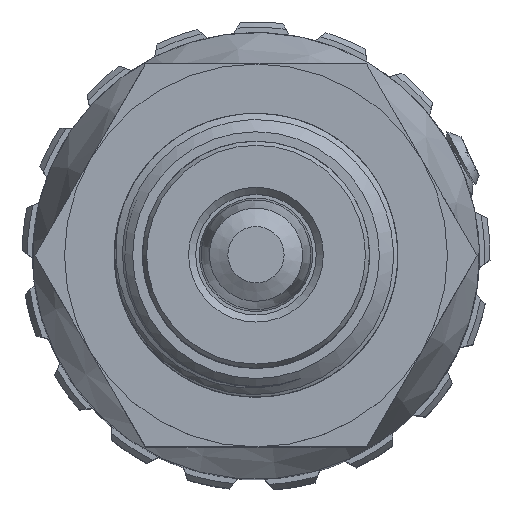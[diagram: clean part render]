
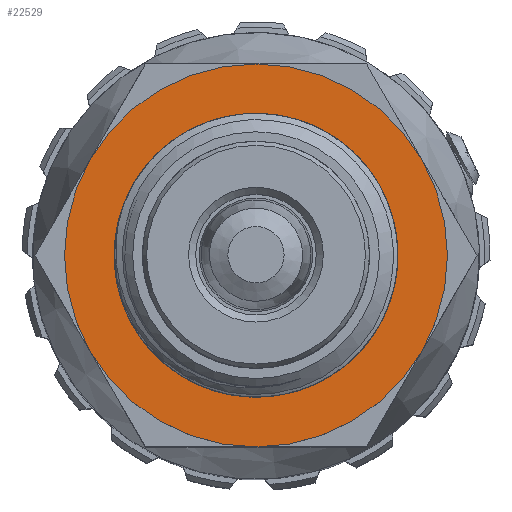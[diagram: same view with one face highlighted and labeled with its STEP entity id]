
A CAD part, top view. The second image highlights one B-rep face of the part: STEP entity #22529.
In plain terms, the highlighted planar face has unit normal (0, 0, 1).
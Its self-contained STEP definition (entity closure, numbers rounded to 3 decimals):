
#582 = VERTEX_POINT ( 'NONE', #12087 ) ;
#1548 = EDGE_LOOP ( 'NONE', ( #15677 ) ) ;
#1649 = DIRECTION ( 'NONE',  ( 0., 0., 1. ) ) ;
#2152 = DIRECTION ( 'NONE',  ( 1., 0., 0. ) ) ;
#2912 = FACE_OUTER_BOUND ( 'NONE', #14624, .T. ) ;
#10520 = PLANE ( 'NONE',  #15893 ) ;
#12087 = CARTESIAN_POINT ( 'NONE',  ( 13.5, 0., 7.5 ) ) ;
#13117 = CIRCLE ( 'NONE', #27239, 8.5 ) ;
#13373 = DIRECTION ( 'NONE',  ( 0., 0., 1. ) ) ;
#14624 = EDGE_LOOP ( 'NONE', ( #18125 ) ) ;
#14733 = EDGE_CURVE ( 'NONE', #582, #582, #34992, .T. ) ;
#15677 = ORIENTED_EDGE ( 'NONE', *, *, #27136, .F. ) ;
#15893 = AXIS2_PLACEMENT_3D ( 'NONE', #32133, #13373, #24179 ) ;
#17204 = VERTEX_POINT ( 'NONE', #22153 ) ;
#18125 = ORIENTED_EDGE ( 'NONE', *, *, #14733, .T. ) ;
#21982 = AXIS2_PLACEMENT_3D ( 'NONE', #34637, #26664, #32315 ) ;
#22153 = CARTESIAN_POINT ( 'NONE',  ( 8.5, 0., 7.5 ) ) ;
#22529 = ADVANCED_FACE ( 'NONE', ( #2912, #34801 ), #10520, .T. ) ;
#24179 = DIRECTION ( 'NONE',  ( 1., 0., 0. ) ) ;
#26664 = DIRECTION ( 'NONE',  ( 0., 0., 1. ) ) ;
#27136 = EDGE_CURVE ( 'NONE', #17204, #17204, #13117, .T. ) ;
#27239 = AXIS2_PLACEMENT_3D ( 'NONE', #31393, #1649, #2152 ) ;
#31393 = CARTESIAN_POINT ( 'NONE',  ( 0., 0., 7.5 ) ) ;
#32133 = CARTESIAN_POINT ( 'NONE',  ( 0., 0., 7.5 ) ) ;
#32315 = DIRECTION ( 'NONE',  ( 1., 0., 0. ) ) ;
#34637 = CARTESIAN_POINT ( 'NONE',  ( 0., 0., 7.5 ) ) ;
#34801 = FACE_BOUND ( 'NONE', #1548, .T. ) ;
#34992 = CIRCLE ( 'NONE', #21982, 13.5 ) ;
